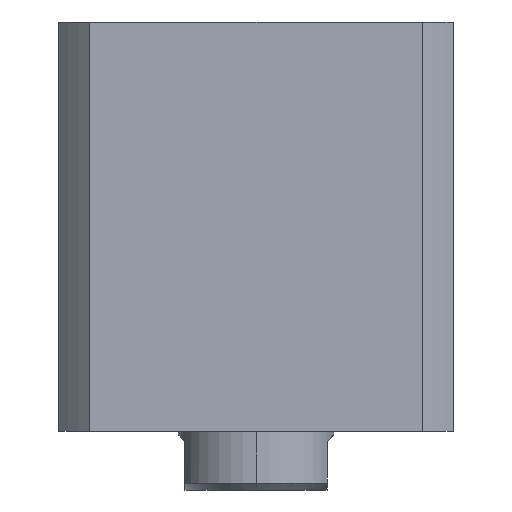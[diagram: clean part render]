
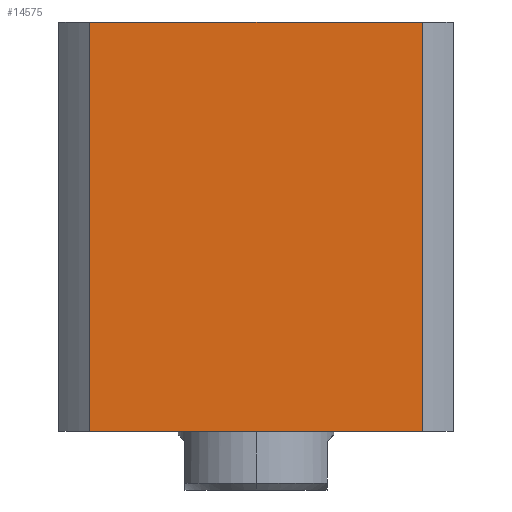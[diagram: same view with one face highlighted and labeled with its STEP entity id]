
A CAD part, front view. The second image highlights one B-rep face of the part: STEP entity #14575.
In plain terms, the highlighted planar face has unit normal (0, -1, 0) as drawn and (-1, 0, 0) by its records, which use the part's own axes.
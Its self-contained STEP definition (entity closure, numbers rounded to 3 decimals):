
#314 = DIRECTION ( 'NONE',  ( 0., -1., 0. ) ) ;
#917 = LINE ( 'NONE', #6829, #3655 ) ;
#989 = EDGE_CURVE ( 'NONE', #3518, #7369, #1223, .T. ) ;
#1223 = LINE ( 'NONE', #3155, #13372 ) ;
#1297 = LINE ( 'NONE', #4656, #1663 ) ;
#1663 = VECTOR ( 'NONE', #15136, 1000. ) ;
#2231 = VERTEX_POINT ( 'NONE', #15044 ) ;
#2621 = DIRECTION ( 'NONE',  ( 0., 1., 0. ) ) ;
#2678 = CARTESIAN_POINT ( 'NONE',  ( -57., 57., 118. ) ) ;
#3155 = CARTESIAN_POINT ( 'NONE',  ( -57., 47.971, -182. ) ) ;
#3306 = EDGE_LOOP ( 'NONE', ( #6956, #13228, #6232, #12520 ) ) ;
#3518 = VERTEX_POINT ( 'NONE', #10124 ) ;
#3655 = VECTOR ( 'NONE', #8014, 1000. ) ;
#4656 = CARTESIAN_POINT ( 'NONE',  ( -57., -47.971, -182. ) ) ;
#4698 = CARTESIAN_POINT ( 'NONE',  ( -57., 47.971, 118. ) ) ;
#5071 = EDGE_CURVE ( 'NONE', #3518, #13071, #917, .T. ) ;
#6232 = ORIENTED_EDGE ( 'NONE', *, *, #8846, .F. ) ;
#6829 = CARTESIAN_POINT ( 'NONE',  ( -57., 57., 0. ) ) ;
#6956 = ORIENTED_EDGE ( 'NONE', *, *, #989, .F. ) ;
#7256 = AXIS2_PLACEMENT_3D ( 'NONE', #14106, #9658, #2621 ) ;
#7369 = VERTEX_POINT ( 'NONE', #4698 ) ;
#7661 = EDGE_CURVE ( 'NONE', #7369, #2231, #14953, .T. ) ;
#8014 = DIRECTION ( 'NONE',  ( 0., -1., 0. ) ) ;
#8846 = EDGE_CURVE ( 'NONE', #2231, #13071, #1297, .T. ) ;
#9304 = PLANE ( 'NONE',  #7256 ) ;
#9658 = DIRECTION ( 'NONE',  ( 1., 0., 0. ) ) ;
#10124 = CARTESIAN_POINT ( 'NONE',  ( -57., 47.971, 0. ) ) ;
#11072 = VECTOR ( 'NONE', #314, 1000. ) ;
#12520 = ORIENTED_EDGE ( 'NONE', *, *, #7661, .F. ) ;
#12571 = DIRECTION ( 'NONE',  ( 0., 0., 1. ) ) ;
#13071 = VERTEX_POINT ( 'NONE', #13532 ) ;
#13228 = ORIENTED_EDGE ( 'NONE', *, *, #5071, .T. ) ;
#13372 = VECTOR ( 'NONE', #12571, 1000. ) ;
#13532 = CARTESIAN_POINT ( 'NONE',  ( -57., -47.971, 0. ) ) ;
#14041 = FACE_OUTER_BOUND ( 'NONE', #3306, .T. ) ;
#14106 = CARTESIAN_POINT ( 'NONE',  ( -57., 57., 118. ) ) ;
#14575 = ADVANCED_FACE ( 'NONE', ( #14041 ), #9304, .F. ) ;
#14953 = LINE ( 'NONE', #2678, #11072 ) ;
#15044 = CARTESIAN_POINT ( 'NONE',  ( -57., -47.971, 118. ) ) ;
#15136 = DIRECTION ( 'NONE',  ( 0., 0., -1. ) ) ;
